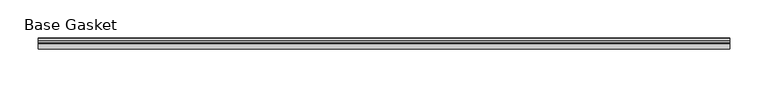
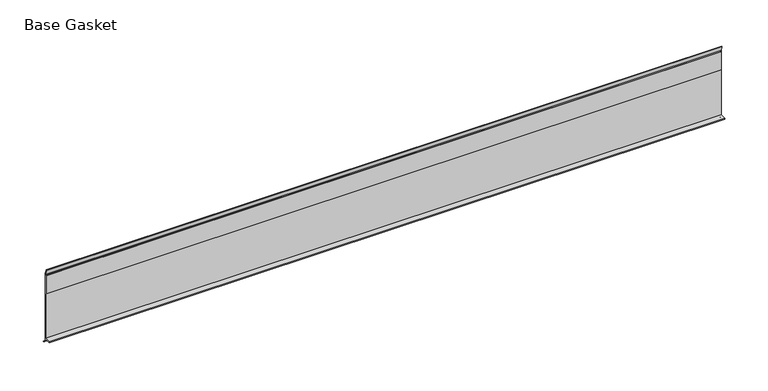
"""IFC4 building model written with IfcOpenShell, lengths in millimetres: furniture geometry, Gasket-Teknion-FHGB-AI_Healthcare-R2021 : Base Gasket."""

from ifc_helpers import new_model, si_unit, frame, origin, place, context, project, spatial, polyline, outline, extrude, source, transform, mapped, element, save


def base_gasket_183e3bff(model_context):
    return source(origin(), model_context, "Body", "SweptSolid", [
        extrude(outline(polyline([(3.7283812, 98.4568417), (3.7283812, 4.3498477), (7.4222115, 0.6560174), (7.8482342, 0.0), (6.8281054, 0.3520979), (2.2043812, 4.3498477), (2.1334222, 6.3818476), (-6.2405171, 6.3818476), (-6.2405171, 7.9398773), (2.2043812, 7.9398773), (2.2043812, 71.4693447), (1.4106313, 71.4693447), (1.4106313, 96.8693477), (2.2043812, 96.8693477), (2.2043812, 98.4568417), (0.6755308, 104.4162708), (0.6755308, 105.2002997), (1.1891543, 104.587663), (3.7283812, 98.4568417)])), frame((-1527.8982117, 0.0, 0.0), z_axis=(1.0, 0.0, 0.0), x_axis=(0.0, 1.0, 0.0)), (0.0, 0.0, 1.0), 901.5681744),
    ])


if __name__ == "__main__":
    model = new_model("IFC4")
    model_context = context("Model", 3, world=origin())
    ifc_project = project(units=[si_unit("LENGTHUNIT", "METRE", prefix="MILLI")], contexts=[model_context])
    site = spatial("IfcSite", under=ifc_project)
    building = spatial("IfcBuilding", under=site)
    placement = place(None, origin())
    base_gasket_shape = base_gasket_183e3bff(model_context)
    element("IfcFurniture", 1, ObjectType="Gasket-Teknion-FHGB-AI_Healthcare-R2021 : Base Gasket", at=placement, inside=building, context=model_context, shape_type="MappedRepresentation", body=[
        mapped(base_gasket_shape, transform((0.0, 0.0, 0.0), x_axis=(1.0, 0.0, 0.0), y_axis=(0.0, 1.0, 0.0), z_axis=(0.0, 0.0, 1.0))),
    ])
    save(model, "model.ifc")
